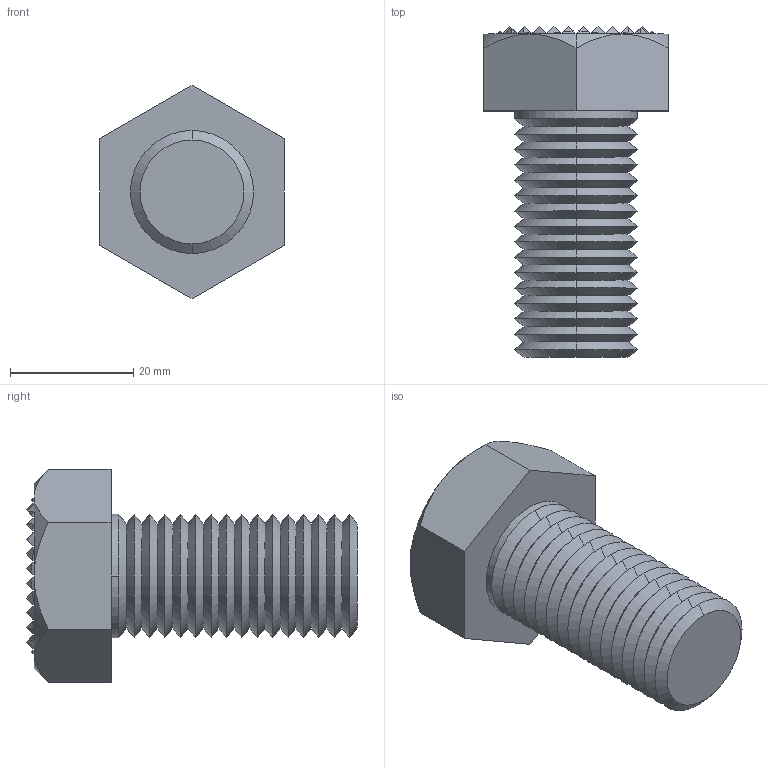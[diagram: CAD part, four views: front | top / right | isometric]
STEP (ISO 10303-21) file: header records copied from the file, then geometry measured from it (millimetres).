
FILE_DESCRIPTION (( 'STEP AP203' ), '1' );
FILE_NAME ('35400.W0013.step', '2017-07-03T07:22:36', ( 'User' ), ( '' ), 'SwSTEP 2.0', 'SolidWorks 2009', '' );
FILE_SCHEMA (( 'CONFIG_CONTROL_DESIGN' ));
Length unit declared in the file: millimetre
Products named in the file (1): 35400.W0013
Bounding box: 30 x 53.7 x 34.64 mm (x, y, z)
Volume: 20657.2 mm3; surface area: 6604.9 mm2
Topology: 1 solids, 1 shells, 524 faces, 880 edges, 360 vertices
Faces by surface type: plane 409, cone 113, cylinder 2
Entity records: 11342 total; most frequent: CARTESIAN_POINT 2163, DIRECTION 1933, ORIENTED_EDGE 1760, EDGE_CURVE 880, VECTOR 645, LINE 645, AXIS2_PLACEMENT_3D 644, EDGE_LOOP 526
